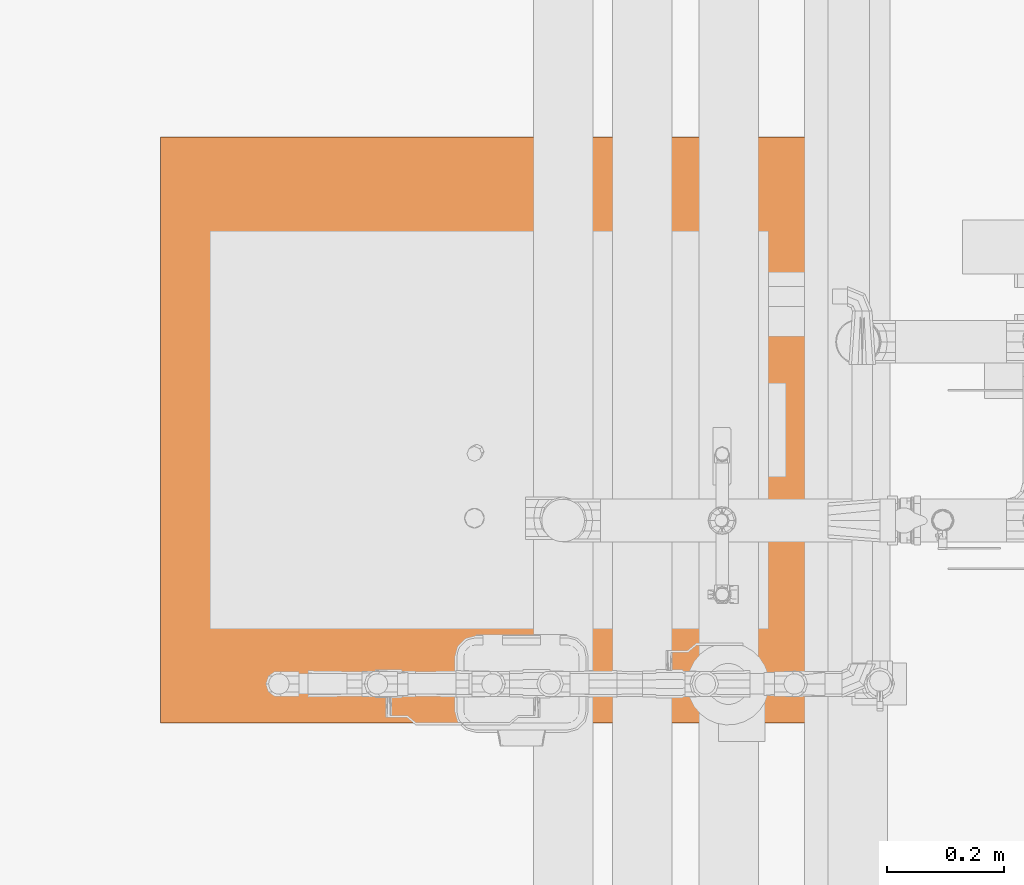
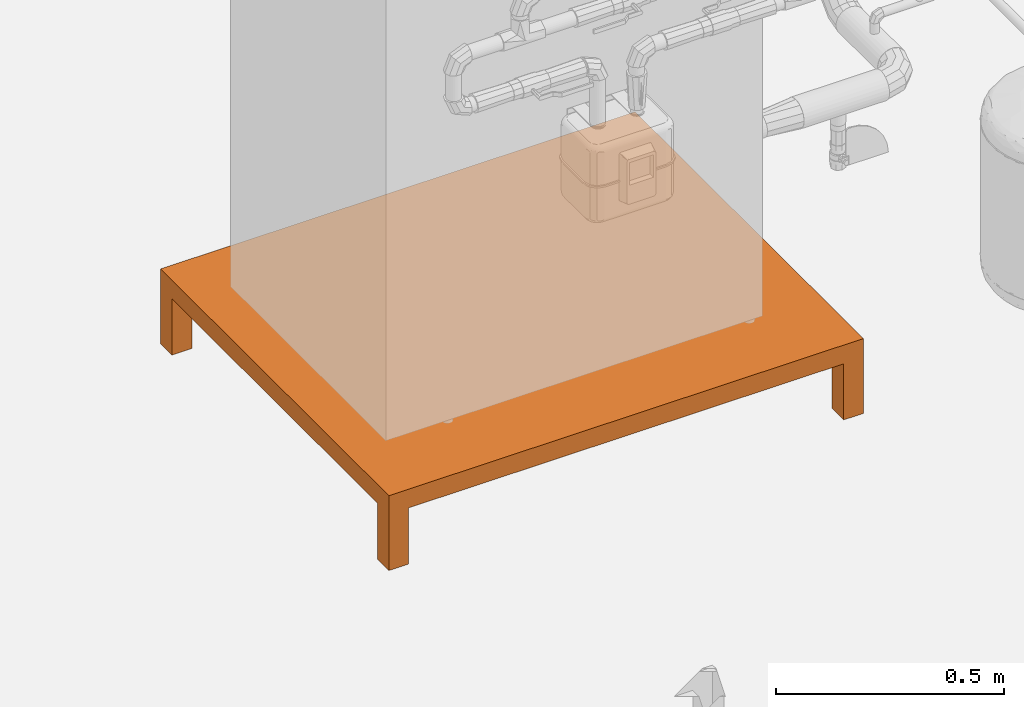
# One storey, part 40 of 43: 1 proxy.
"""IFC2X3 building model written with IfcOpenShell, lengths in millimetres."""

from ifc_helpers import new_model, entity, si_unit, converted_unit, derived_unit, direction, frame, origin, place, context, subcontext, project, spatial, faceted_brep, source, transform, mapped, material, material_list, type_object, type_shapes, element, save


model = new_model("IFC2X3")

# Units and contexts
model_context = context("Model", 3, precision=0.01, world=origin(), true_north=direction((6.123031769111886e-17, 1.0)))
body_context = subcontext(model_context, "Body", "Model", "MODEL_VIEW")
ifc_project = project(units=[si_unit("LENGTHUNIT", "METRE", prefix="MILLI"), si_unit("AREAUNIT", "SQUARE_METRE"), si_unit("VOLUMEUNIT", "CUBIC_METRE"), converted_unit("PLANEANGLEUNIT", "DEGREE", entity("IfcRatioMeasure", 0.017453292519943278), si_unit("PLANEANGLEUNIT", "RADIAN"), dimensions=[0, 0, 0, 0, 0, 0, 0]), si_unit("MASSUNIT", "GRAM", prefix="KILO"), derived_unit("MASSDENSITYUNIT", [(si_unit("MASSUNIT", "GRAM", prefix="KILO"), 1), (si_unit("LENGTHUNIT", "METRE"), -3)]), derived_unit("MOMENTOFINERTIAUNIT", [(si_unit("LENGTHUNIT", "METRE"), 4)]), si_unit("TIMEUNIT", "SECOND"), si_unit("FREQUENCYUNIT", "HERTZ"), si_unit("THERMODYNAMICTEMPERATUREUNIT", "DEGREE_CELSIUS"), derived_unit("THERMALTRANSMITTANCEUNIT", [(si_unit("MASSUNIT", "GRAM", prefix="KILO"), 1), (si_unit("THERMODYNAMICTEMPERATUREUNIT", "KELVIN"), -1), (si_unit("TIMEUNIT", "SECOND"), -3)]), derived_unit("VOLUMETRICFLOWRATEUNIT", [(si_unit("LENGTHUNIT", "METRE"), 3), (si_unit("TIMEUNIT", "SECOND"), -1)]), derived_unit("MASSFLOWRATEUNIT", [(si_unit("MASSUNIT", "GRAM", prefix="KILO"), 1), (si_unit("TIMEUNIT", "SECOND"), -1)]), derived_unit("ROTATIONALFREQUENCYUNIT", [(si_unit("TIMEUNIT", "SECOND"), -1)]), si_unit("ELECTRICCURRENTUNIT", "AMPERE"), si_unit("ELECTRICVOLTAGEUNIT", "VOLT"), si_unit("POWERUNIT", "WATT"), si_unit("FORCEUNIT", "NEWTON", prefix="KILO"), si_unit("ILLUMINANCEUNIT", "LUX"), si_unit("LUMINOUSFLUXUNIT", "LUMEN"), si_unit("LUMINOUSINTENSITYUNIT", "CANDELA"), derived_unit("USERDEFINED", [(si_unit("MASSUNIT", "GRAM", prefix="KILO"), -1), (si_unit("LENGTHUNIT", "METRE"), -2), (si_unit("TIMEUNIT", "SECOND"), 3), (si_unit("LUMINOUSFLUXUNIT", "LUMEN"), 1)]), derived_unit("SOUNDPOWERUNIT", [(si_unit("MASSUNIT", "GRAM", prefix="KILO"), 1), (si_unit("LENGTHUNIT", "METRE"), 2), (si_unit("TIMEUNIT", "SECOND"), -3)]), derived_unit("SOUNDPRESSUREUNIT", [(si_unit("MASSUNIT", "GRAM", prefix="KILO"), 1), (si_unit("LENGTHUNIT", "METRE"), -1), (si_unit("TIMEUNIT", "SECOND"), -2)]), derived_unit("LINEARVELOCITYUNIT", [(si_unit("LENGTHUNIT", "METRE"), 1), (si_unit("TIMEUNIT", "SECOND"), -1)]), si_unit("PRESSUREUNIT", "PASCAL"), derived_unit("USERDEFINED", [(si_unit("LENGTHUNIT", "METRE"), -2), (si_unit("MASSUNIT", "GRAM", prefix="KILO"), 1), (si_unit("TIMEUNIT", "SECOND"), -2)]), derived_unit("LINEARFORCEUNIT", [(si_unit("MASSUNIT", "GRAM", prefix="KILO"), 1), (si_unit("LENGTHUNIT", "METRE"), 1), (si_unit("TIMEUNIT", "SECOND"), -2), (si_unit("LENGTHUNIT", "METRE"), -1)]), derived_unit("PLANARFORCEUNIT", [(si_unit("MASSUNIT", "GRAM", prefix="KILO"), 1), (si_unit("LENGTHUNIT", "METRE"), 1), (si_unit("TIMEUNIT", "SECOND"), -2), (si_unit("LENGTHUNIT", "METRE"), -2)])], contexts=[model_context])

# Site, building, storey
site_placement = place(None, origin())
site = spatial("IfcSite", under=ifc_project, at=site_placement, Name="Default", CompositionType="ELEMENT")
building_placement = place(site_placement, origin())
building = spatial("IfcBuilding", under=site, at=building_placement, CompositionType="ELEMENT")
storey_placement = place(building_placement, frame((0.0, 0.0, 270.0)))
storey = spatial("IfcBuildingStorey", under=building, at=storey_placement, Name="Niveau 0", CompositionType="ELEMENT", Elevation=270.0)

# Proxy
ifc_material_1 = material(Name="Acier noir")
ifc_material_2 = material(Name="Acier rouge")
ifc_material_list_1 = material_list([ifc_material_1, ifc_material_2])
ifc_material_list_2 = material_list([ifc_material_1, ifc_material_2])
building_element_proxy_type = type_object("IfcBuildingElementProxyType", Name="Socle chaudière 1000x1200x200:Socle chaudière 1000x1200x200", PredefinedType="NOTDEFINED", material=ifc_material_list_2)
shared_shape = source(origin(), body_context, "Body", "Brep", [
    faceted_brep([(500.0, 600.0, 200.0), (-500.0, 600.0, 200.0), (-500.0, -600.0, 200.0), (500.0, -600.0, 200.0), (500.0, 600.0, 195.0), (500.0, -600.0, 195.0), (-500.0, -600.0, 195.0), (-500.0, 600.0, 195.0)], [[[0, 1, 2, 3]], [[4, 5, 6, 7]], [[1, 0, 4, 7]], [[2, 1, 7, 6]], [[3, 2, 6, 5]], [[0, 3, 5, 4]]]),
    faceted_brep([(500.0, 600.0, 195.0), (-500.0, 600.0, 195.0), (-500.0, -600.0, 195.0), (500.0, -600.0, 195.0), (-500.0, 600.0, 0.0), (-450.0, 600.0, 0.0), (-450.0, 550.0, 0.0), (-500.0, 550.0, 0.0), (500.0, 600.0, 0.0), (450.0, 600.0, 0.0), (450.0, 600.0, 150.0), (-450.0, 600.0, 150.0), (-500.0, 550.0, 150.0), (-500.0, -550.0, 150.0), (-500.0, -550.0, 0.0), (-500.0, -600.0, 0.0), (-450.0, -600.0, 0.0), (-450.0, -600.0, 150.0), (450.0, -600.0, 150.0), (450.0, -600.0, 0.0), (500.0, -600.0, 0.0), (500.0, -550.0, 0.0), (500.0, -550.0, 150.0), (500.0, 550.0, 150.0), (500.0, 550.0, 0.0), (450.0, 550.0, 150.0), (450.0, -550.0, 150.0), (-450.0, -550.0, 150.0), (-450.0, 550.0, 150.0), (450.0, -550.0, 0.0), (450.0, 550.0, 0.0), (-450.0, -550.0, 0.0)], [[[0, 1, 2, 3]], [[4, 5, 6, 7]], [[1, 0, 8, 9, 10, 11, 5, 4]], [[2, 1, 4, 7, 12, 13, 14, 15]], [[3, 2, 15, 16, 17, 18, 19, 20]], [[0, 3, 20, 21, 22, 23, 24, 8]], [[11, 10, 25, 23, 22, 26, 18, 17, 27, 13, 12, 28]], [[19, 18, 26, 29]], [[5, 11, 28, 6]], [[23, 25, 30, 24]], [[13, 27, 31, 14]], [[26, 22, 21, 29]], [[28, 12, 7, 6]], [[17, 16, 31, 27]], [[10, 9, 30, 25]], [[16, 15, 14, 31]], [[9, 8, 24, 30]], [[20, 19, 29, 21]]]),
])
type_shapes(building_element_proxy_type, [shared_shape])
proxy_placement = place(storey_placement, frame((-2590.5756800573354, -9460.500000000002, 0.0), z_axis=(0.0, 0.0, 1.0), x_axis=(0.0, 1.0, 0.0)))
element("IfcBuildingElementProxy", 1, at=proxy_placement, inside=storey, type_object=building_element_proxy_type, material=ifc_material_list_1, Name="Socle chaudière 1000x1200x200:Socle chaudière 1000x1200x200", ObjectType="Socle chaudière 1000x1200x200:Socle chaudière 1000x1200x200", context=body_context, shape_type="MappedRepresentation", body=[
    mapped(shared_shape, transform((0.0, 0.0, 0.0), scale=1.0)),
])

save(model, "model.ifc")
